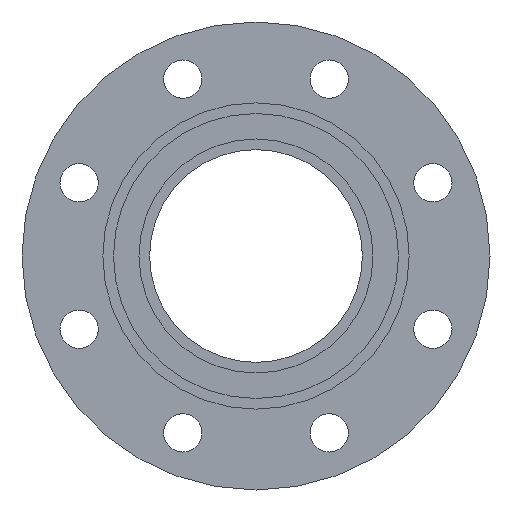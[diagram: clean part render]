
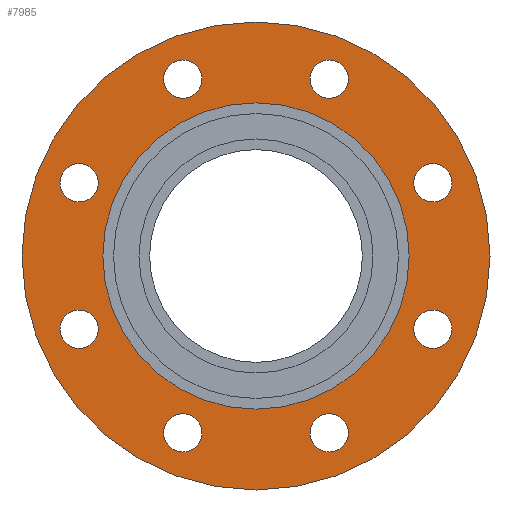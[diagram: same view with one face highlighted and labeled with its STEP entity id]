
A CAD part, left-side view. The second image highlights one B-rep face of the part: STEP entity #7985.
In plain terms, the highlighted planar face has unit normal (-1, 0, 0).
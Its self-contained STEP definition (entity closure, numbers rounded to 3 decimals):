
#7985=ADVANCED_FACE('',(#14276,#14278,#14280,#14282,#14284,#14286,#14288,#14290,
#14292,#14294),#14296,.T.);
#14276=FACE_BOUND('',#14277,.T.);
#14277=EDGE_LOOP('',(#19382,#19383));
#14278=FACE_BOUND('',#14279,.T.);
#14279=EDGE_LOOP('',(#19384));
#14280=FACE_BOUND('',#14281,.T.);
#14281=EDGE_LOOP('',(#19385));
#14282=FACE_BOUND('',#14283,.T.);
#14283=EDGE_LOOP('',(#19386));
#14284=FACE_BOUND('',#14285,.T.);
#14285=EDGE_LOOP('',(#19387));
#14286=FACE_BOUND('',#14287,.T.);
#14287=EDGE_LOOP('',(#19388));
#14288=FACE_BOUND('',#14289,.T.);
#14289=EDGE_LOOP('',(#19389));
#14290=FACE_BOUND('',#14291,.T.);
#14291=EDGE_LOOP('',(#19390));
#14292=FACE_BOUND('',#14293,.T.);
#14293=EDGE_LOOP('',(#19391,#19392));
#14294=FACE_BOUND('',#14295,.T.);
#14295=EDGE_LOOP('',(#19393));
#14296=PLANE('',#14297);
#14297=AXIS2_PLACEMENT_3D('',#14298,#14299,#14300);
#14298=CARTESIAN_POINT('',(10538.22,1237.013,0.));
#14299=DIRECTION('',(-1.,0.,0.));
#14300=DIRECTION('',(0.,0.,1.));
#19382=ORIENTED_EDGE('',*,*,#21943,.F.);
#19383=ORIENTED_EDGE('',*,*,#21944,.F.);
#19384=ORIENTED_EDGE('',*,*,#21856,.T.);
#19385=ORIENTED_EDGE('',*,*,#21858,.T.);
#19386=ORIENTED_EDGE('',*,*,#21860,.T.);
#19387=ORIENTED_EDGE('',*,*,#21878,.T.);
#19388=ORIENTED_EDGE('',*,*,#21880,.T.);
#19389=ORIENTED_EDGE('',*,*,#21882,.T.);
#19390=ORIENTED_EDGE('',*,*,#21884,.T.);
#19391=ORIENTED_EDGE('',*,*,#21941,.T.);
#19392=ORIENTED_EDGE('',*,*,#21942,.T.);
#19393=ORIENTED_EDGE('',*,*,#21854,.T.);
#21854=EDGE_CURVE('',#26016,#26016,#26017,.T.);
#21856=EDGE_CURVE('',#26020,#26020,#26021,.T.);
#21858=EDGE_CURVE('',#26024,#26024,#26025,.T.);
#21860=EDGE_CURVE('',#26028,#26028,#26029,.T.);
#21878=EDGE_CURVE('',#26064,#26064,#26065,.T.);
#21880=EDGE_CURVE('',#26068,#26068,#26069,.T.);
#21882=EDGE_CURVE('',#26072,#26072,#26073,.T.);
#21884=EDGE_CURVE('',#26076,#26076,#26077,.T.);
#21941=EDGE_CURVE('',#26190,#26191,#26192,.T.);
#21942=EDGE_CURVE('',#26191,#26190,#26193,.T.);
#21943=EDGE_CURVE('',#26194,#26195,#26196,.T.);
#21944=EDGE_CURVE('',#26195,#26194,#26197,.T.);
#26016=VERTEX_POINT('',#35154);
#26017=CIRCLE('',#35155,9.);
#26020=VERTEX_POINT('',#35164);
#26021=CIRCLE('',#35165,9.);
#26024=VERTEX_POINT('',#35174);
#26025=CIRCLE('',#35175,9.);
#26028=VERTEX_POINT('',#35184);
#26029=CIRCLE('',#35185,9.);
#26064=VERTEX_POINT('',#35274);
#26065=CIRCLE('',#35275,9.);
#26068=VERTEX_POINT('',#35284);
#26069=CIRCLE('',#35285,9.);
#26072=VERTEX_POINT('',#35294);
#26073=CIRCLE('',#35295,9.);
#26076=VERTEX_POINT('',#35304);
#26077=CIRCLE('',#35305,9.);
#26190=VERTEX_POINT('',#35589);
#26191=VERTEX_POINT('',#35590);
#26192=CIRCLE('',#35591,72.);
#26193=CIRCLE('',#35595,72.);
#26194=VERTEX_POINT('',#35599);
#26195=VERTEX_POINT('',#35600);
#26196=CIRCLE('',#35601,110.);
#26197=CIRCLE('',#35605,110.);
#35154=CARTESIAN_POINT('',(10538.22,1421.162,34.442));
#35155=AXIS2_PLACEMENT_3D('',#35156,#35157,#35158);
#35156=CARTESIAN_POINT('',(10538.22,1430.162,34.442));
#35157=DIRECTION('',(1.,0.,0.));
#35158=DIRECTION('',(0.,-1.,0.));
#35164=CARTESIAN_POINT('',(10538.22,1303.571,83.149));
#35165=AXIS2_PLACEMENT_3D('',#35166,#35167,#35168);
#35166=CARTESIAN_POINT('',(10538.22,1312.571,83.149));
#35167=DIRECTION('',(1.,0.,0.));
#35168=DIRECTION('',(0.,-1.,0.));
#35174=CARTESIAN_POINT('',(10538.22,1254.864,-34.442));
#35175=AXIS2_PLACEMENT_3D('',#35176,#35177,#35178);
#35176=CARTESIAN_POINT('',(10538.22,1263.864,-34.442));
#35177=DIRECTION('',(1.,0.,0.));
#35178=DIRECTION('',(0.,-1.,0.));
#35184=CARTESIAN_POINT('',(10538.22,1372.454,-83.149));
#35185=AXIS2_PLACEMENT_3D('',#35186,#35187,#35188);
#35186=CARTESIAN_POINT('',(10538.22,1381.454,-83.149));
#35187=DIRECTION('',(1.,0.,0.));
#35188=DIRECTION('',(0.,-1.,0.));
#35274=CARTESIAN_POINT('',(10538.22,1303.571,-83.149));
#35275=AXIS2_PLACEMENT_3D('',#35276,#35277,#35278);
#35276=CARTESIAN_POINT('',(10538.22,1312.571,-83.149));
#35277=DIRECTION('',(1.,0.,0.));
#35278=DIRECTION('',(0.,-1.,0.));
#35284=CARTESIAN_POINT('',(10538.22,1254.864,34.442));
#35285=AXIS2_PLACEMENT_3D('',#35286,#35287,#35288);
#35286=CARTESIAN_POINT('',(10538.22,1263.864,34.442));
#35287=DIRECTION('',(1.,0.,0.));
#35288=DIRECTION('',(0.,-1.,0.));
#35294=CARTESIAN_POINT('',(10538.22,1372.454,83.149));
#35295=AXIS2_PLACEMENT_3D('',#35296,#35297,#35298);
#35296=CARTESIAN_POINT('',(10538.22,1381.454,83.149));
#35297=DIRECTION('',(1.,0.,0.));
#35298=DIRECTION('',(0.,-1.,0.));
#35304=CARTESIAN_POINT('',(10538.22,1421.162,-34.442));
#35305=AXIS2_PLACEMENT_3D('',#35306,#35307,#35308);
#35306=CARTESIAN_POINT('',(10538.22,1430.162,-34.442));
#35307=DIRECTION('',(1.,0.,0.));
#35308=DIRECTION('',(0.,-1.,0.));
#35589=CARTESIAN_POINT('',(10538.22,1275.013,0.));
#35590=CARTESIAN_POINT('',(10538.22,1419.013,0.));
#35591=AXIS2_PLACEMENT_3D('',#35592,#35593,#35594);
#35592=CARTESIAN_POINT('',(10538.22,1347.013,0.));
#35593=DIRECTION('',(1.,0.,0.));
#35594=DIRECTION('',(0.,-1.,0.));
#35595=AXIS2_PLACEMENT_3D('',#35596,#35597,#35598);
#35596=CARTESIAN_POINT('',(10538.22,1347.013,0.));
#35597=DIRECTION('',(1.,0.,0.));
#35598=DIRECTION('',(0.,1.,0.));
#35599=CARTESIAN_POINT('',(10538.22,1457.013,0.));
#35600=CARTESIAN_POINT('',(10538.22,1237.013,0.));
#35601=AXIS2_PLACEMENT_3D('',#35602,#35603,#35604);
#35602=CARTESIAN_POINT('',(10538.22,1347.013,0.));
#35603=DIRECTION('',(1.,0.,0.));
#35604=DIRECTION('',(0.,1.,0.));
#35605=AXIS2_PLACEMENT_3D('',#35606,#35607,#35608);
#35606=CARTESIAN_POINT('',(10538.22,1347.013,0.));
#35607=DIRECTION('',(1.,0.,0.));
#35608=DIRECTION('',(0.,-1.,0.));
